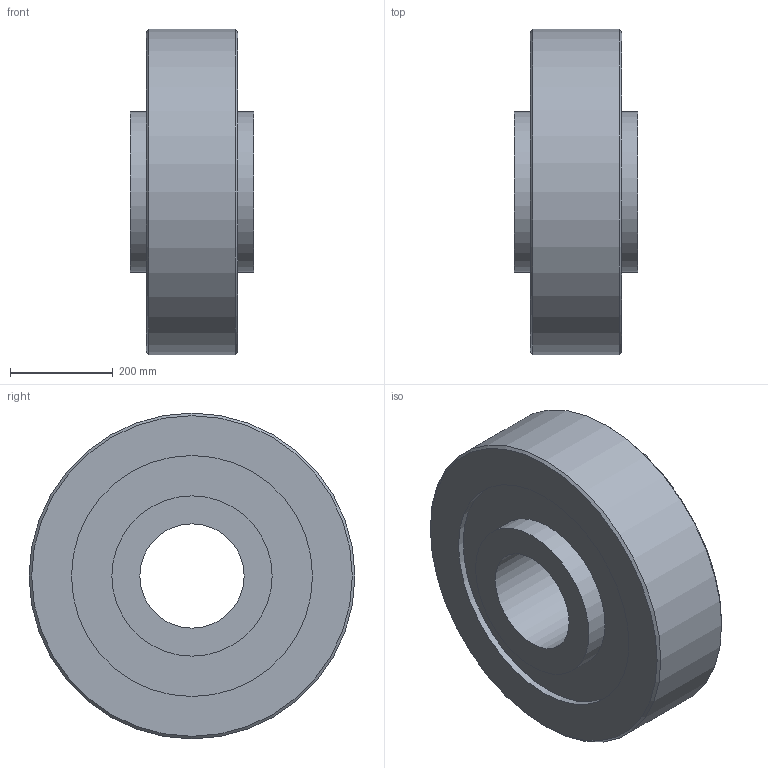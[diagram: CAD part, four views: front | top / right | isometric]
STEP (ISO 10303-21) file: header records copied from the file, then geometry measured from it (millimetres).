
FILE_DESCRIPTION((''),'1');
FILE_NAME('H:/図庫/国内ﾕﾆｯﾄ/ｶﾀﾛｸﾞ/ｸﾘｰﾌﾟﾌﾘｰ/ホームページ用ＣＡＤ図面/3D/update用', '2017-07-13T01:49:46',(''), (''), 'KCM Version 1.1.1442.0', 'Kubotek KeyCreator', '');
FILE_SCHEMA(('AUTOMOTIVE_DESIGN'));
Length unit declared in the file: inch
Bounding box: 241.3 x 635 x 635 mm (x, y, z)
Surface area: 1190071.4 mm2 (no closed solid volume)
Topology: 0 solids, 14 shells, 14 faces, 36 edges, 28 vertices
Faces by surface type: plane 6, cylinder 6, cone 2
Full cylindrical faces by diameter (mm): 203.2 x1, 312.42 x2, 469.9 x2, 635 x1
Entity records: 482 total; most frequent: DIRECTION 94, CARTESIAN_POINT 79, ORIENTED_EDGE 44, AXIS2_PLACEMENT_3D 43, EDGE_CURVE 36, VERTEX_POINT 28, CIRCLE 28, EDGE_LOOP 20
